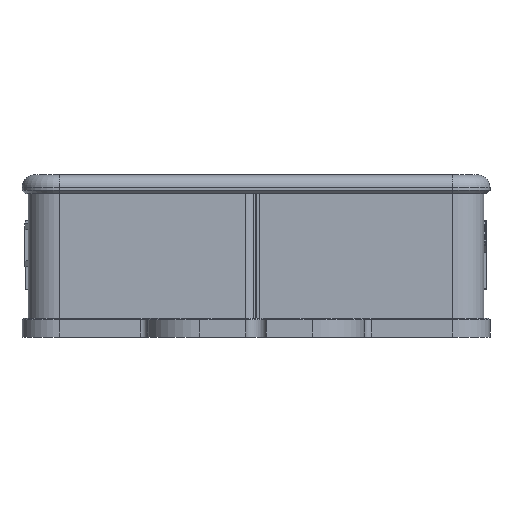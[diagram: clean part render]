
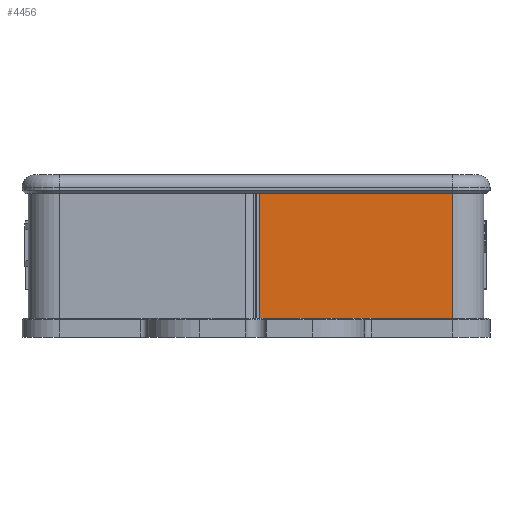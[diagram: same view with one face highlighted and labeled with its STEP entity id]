
A CAD part, left-side view. The second image highlights one B-rep face of the part: STEP entity #4456.
In plain terms, the highlighted planar face has unit normal (-1, 0, 0).
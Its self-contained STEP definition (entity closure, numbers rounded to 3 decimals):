
#629=FACE_OUTER_BOUND('',#11855,.T.);
#4456=ADVANCED_FACE('',(#629),#7737,.T.);
#7737=PLANE('',#63397);
#11855=EDGE_LOOP('',(#15654,#15655,#15656,#15657));
#15654=ORIENTED_EDGE('',*,*,#39690,.F.);
#15655=ORIENTED_EDGE('',*,*,#39691,.T.);
#15656=ORIENTED_EDGE('',*,*,#39692,.T.);
#15657=ORIENTED_EDGE('',*,*,#39693,.F.);
#33732=VERTEX_POINT('',#85435);
#33733=VERTEX_POINT('',#85436);
#33734=VERTEX_POINT('',#85438);
#33735=VERTEX_POINT('',#85440);
#39690=EDGE_CURVE('',#33732,#33733,#48677,.T.);
#39691=EDGE_CURVE('',#33732,#33734,#48678,.T.);
#39692=EDGE_CURVE('',#33734,#33735,#48679,.T.);
#39693=EDGE_CURVE('',#33733,#33735,#48680,.T.);
#48677=LINE('',#85434,#56104);
#48678=LINE('',#85437,#56105);
#48679=LINE('',#85439,#56106);
#48680=LINE('',#85441,#56107);
#56104=VECTOR('',#68369,1.);
#56105=VECTOR('',#68370,1.);
#56106=VECTOR('',#68371,1.);
#56107=VECTOR('',#68372,1.);
#63397=AXIS2_PLACEMENT_3D('',#85442,#68373,#68374);
#68369=DIRECTION('',(0.,0.,1.));
#68370=DIRECTION('',(0.,-1.,0.));
#68371=DIRECTION('',(0.,0.,1.));
#68372=DIRECTION('',(0.,-1.,0.));
#68373=DIRECTION('',(-1.,0.,0.));
#68374=DIRECTION('',(0.,1.,0.));
#85434=CARTESIAN_POINT('',(-47.85,-0.5,2.));
#85435=CARTESIAN_POINT('',(-47.85,-0.5,2.8));
#85436=CARTESIAN_POINT('',(-47.85,-0.5,23.));
#85437=CARTESIAN_POINT('',(-47.85,-35.5,2.8));
#85438=CARTESIAN_POINT('',(-47.85,-31.5,2.8));
#85439=CARTESIAN_POINT('',(-47.85,-31.5,22.));
#85440=CARTESIAN_POINT('',(-47.85,-31.5,23.));
#85441=CARTESIAN_POINT('',(-47.85,-35.5,23.));
#85442=CARTESIAN_POINT('',(-47.85,-35.5,22.));
